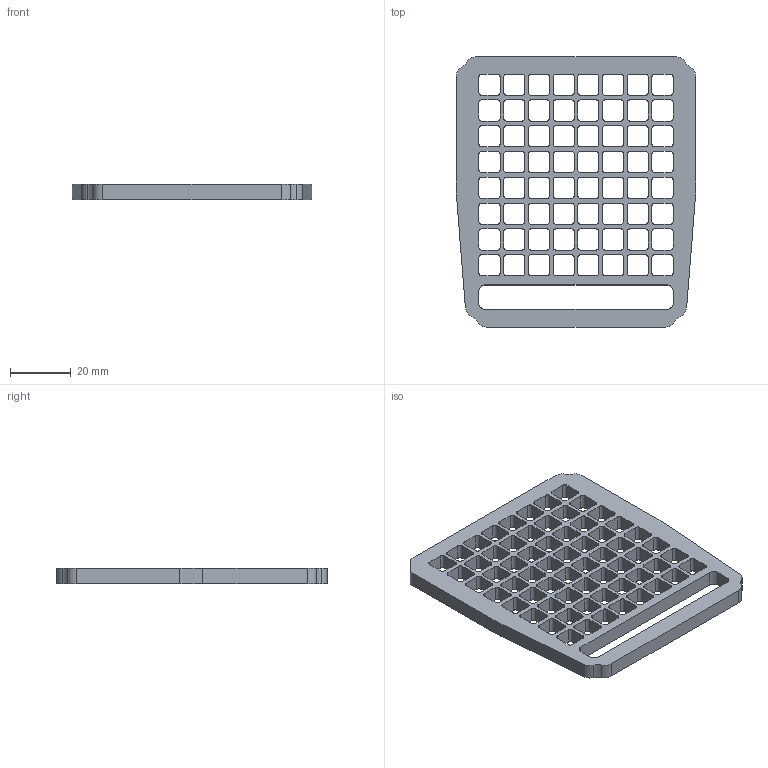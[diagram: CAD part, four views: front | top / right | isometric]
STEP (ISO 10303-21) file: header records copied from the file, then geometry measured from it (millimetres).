
FILE_DESCRIPTION(('CATIA V5 STEP Exchange','CAx-IF Rec.Pracs.--- Model Styling and Organization---1.4--- 2014-01-23'),'2;1');
FILE_NAME('D:\모델\플래그\플래그\일반\bulkhead.stp','2026-07-14T16:00:16+00:00',('none'),('none'),'CATIA Version 5-6 Release 2018','CATIA V5 STEP AP214','none');
FILE_SCHEMA(('AUTOMOTIVE_DESIGN { 1 0 10303 214 1 1 1 1 }'));
Length unit declared in the file: millimetre
Products named in the file (1): bulkhead
Bounding box: 79 x 89 x 5 mm (x, y, z)
Volume: 16127.8 mm3; surface area: 17149.4 mm2
Topology: 1 solids, 1 shells, 542 faces, 1620 edges, 1080 vertices
Faces by surface type: cylinder 274, plane 268
Entity records: 17993 total; most frequent: ORIENTED_EDGE 3240, CARTESIAN_POINT 3214, DIRECTION 2646, EDGE_CURVE 1620, VERTEX_POINT 1080, VECTOR 1072, LINE 1072, AXIS2_PLACEMENT_3D 1062
